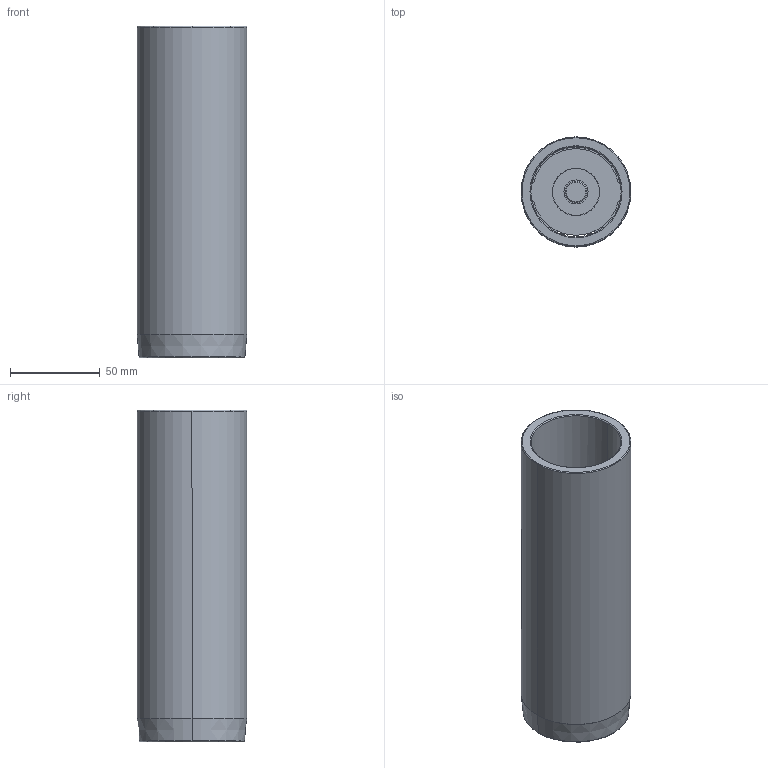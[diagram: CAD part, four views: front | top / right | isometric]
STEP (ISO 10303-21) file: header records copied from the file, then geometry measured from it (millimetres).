
FILE_DESCRIPTION((''),'2;1');
FILE_NAME('C12_050_185.stp','2009-01-28T14:18:33',(''),(''),'Mechanical Desktop 2009','Mechanical Desktop 2009',', , ');
FILE_SCHEMA(('CONFIG_CONTROL_DESIGN'));
Length unit declared in the file: millimetre
Products named in the file (2): Product; blmdl1
Assembly tree (1 placements, depth 2):
  Product
    blmdl1
Bounding box: 61.25 x 61.25 x 185 mm (x, y, z)
Volume: 180804.5 mm3; surface area: 76782.1 mm2
Topology: 5 solids, 5 shells, 79 faces, 200 edges, 134 vertices
Faces by surface type: cylinder 34, plane 29, torus 10, cone 6
Entity records: 2585 total; most frequent: DIRECTION 480, CARTESIAN_POINT 435, ORIENTED_EDGE 400, AXIS2_PLACEMENT_3D 203, EDGE_CURVE 200, VERTEX_POINT 134, CIRCLE 122, EDGE_LOOP 92
